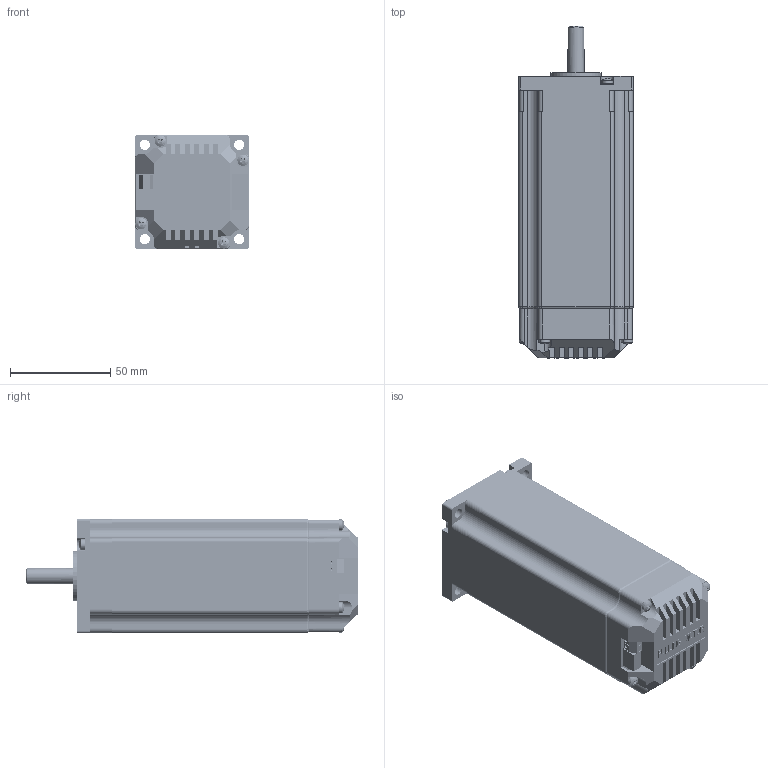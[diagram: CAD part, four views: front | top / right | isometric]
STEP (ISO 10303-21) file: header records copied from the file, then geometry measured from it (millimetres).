
FILE_DESCRIPTION((''),'2;1');
FILE_NAME('3_1_02_057_3935_ASM_SW0001','2024-10-15T09:52:38',('wujn'),(''),'CREO PARAMETRIC BY PTC INC, 2017110','CREO PARAMETRIC BY PTC INC, 2017110','');
FILE_SCHEMA(('CONFIG_CONTROL_DESIGN'));
Products named in the file (1): 3_1_02_057_3935_ASM_SW0001
Bounding box: 57 x 165.74 x 57 mm (x, y, z)
Volume: 336229.8 mm3; surface area: 72625.6 mm2
Topology: 1 solids, 21 shells, 14065 faces, 37935 edges, 24808 vertices
Faces by surface type: plane 9119, extrusion 3199, cylinder 1279, torus 255, sphere 168, cone 26, bspline 19
Entity records: 568254 total; most frequent: CARTESIAN_POINT 226101, ORIENTED_EDGE 75538, DIRECTION 59161, EDGE_CURVE 37769, VECTOR 30889, LINE 27690, VERTEX_POINT 24808, EDGE_LOOP 15351
